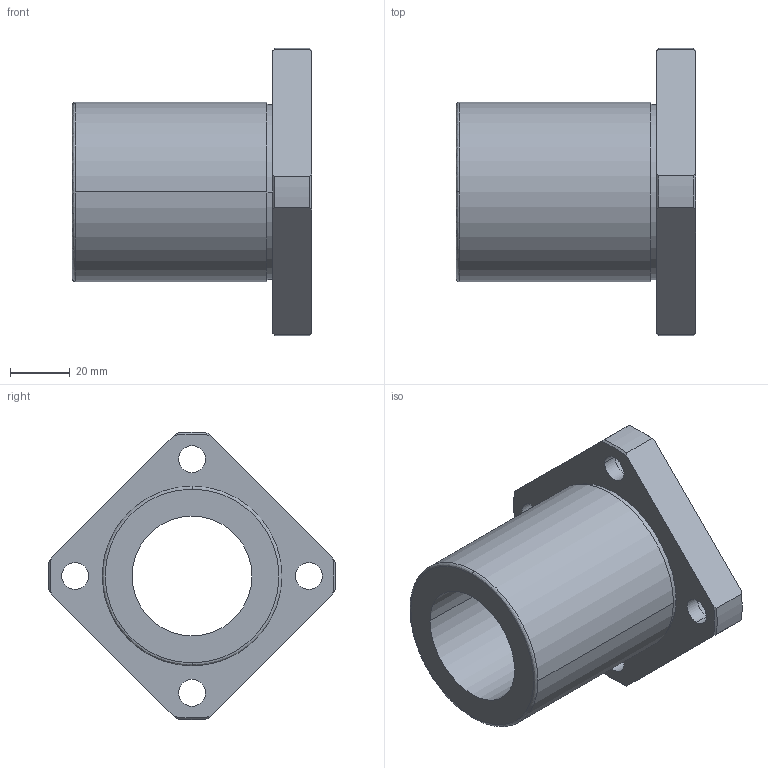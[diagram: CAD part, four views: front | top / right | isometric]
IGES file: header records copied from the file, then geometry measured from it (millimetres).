
Start section: 3D InterOp IGES (Version 21 0 1), Spatial Corp. Copyright (c) 1999-2007.
Global section: file name: NF-40VUU.igs; native system: Spatial Corp.; preprocessor: 3D InterOp GENERIC/IGES 3.0; author: Noname; organization: Noname; date: 20220308.153920; units: millimetre
Bounding box: 80 x 95.97 x 95.93 mm (x, y, z)
Surface area: 36505.6 mm2 (no closed solid volume)
Topology: 0 solids, 0 shells, 51 faces, 256 edges, 256 vertices
Faces by surface type: revolution 39, extrusion 12
